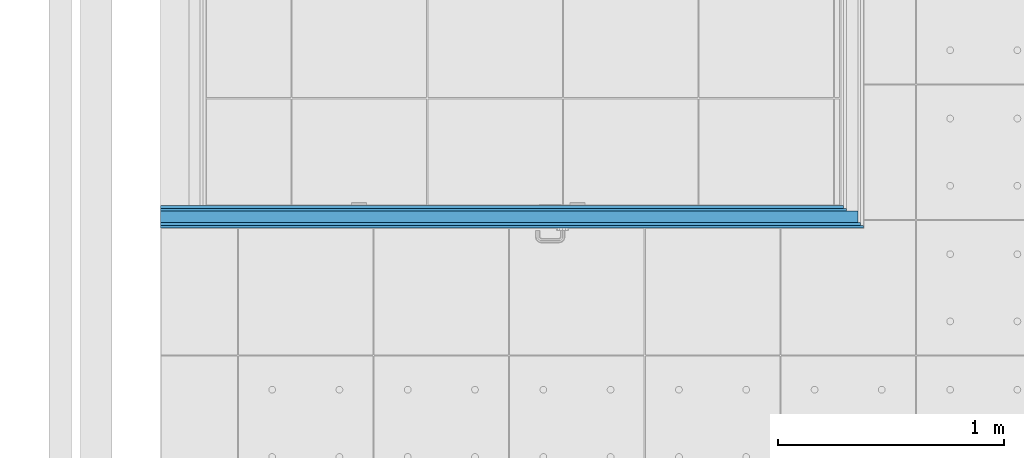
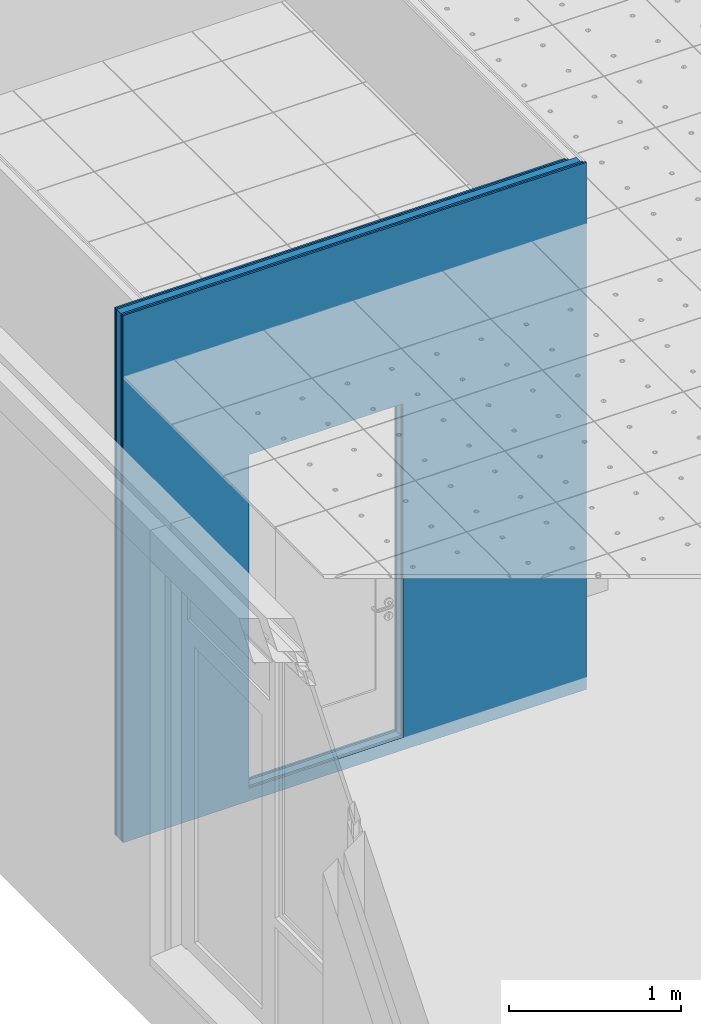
# One storey, part 25 of 338: 5 building element parts, 1 opening, 1 element without a shape of its own.
"""IFC2X3 building model written with IfcOpenShell, lengths in millimetres."""

import ifcopenshell
import ifcopenshell.guid

model = None  # the IFC model being written
_history = None  # IfcOwnerHistory: only IFC2X3 demands one
_inside = {}  # id of a spatial element -> (the spatial element, [elements in it])
_under = {}  # id of a project, library or spatial element -> (it, [spatial elements below it])
_declared = {}  # id of a project -> (the project, [libraries it declares])
_typed = {}  # id of a type object -> (the type object, [elements of that type])
_made_of = {}  # id of a material, layer set ... -> (it, [elements and type objects made of it])


def new_model(schema):
    """Start an empty IFC model of exactly this schema.

    Asked for "IFC4X3", IfcOpenShell would pick the latest addendum, in which some entities
    have other attributes; the version numbers below select the first issue.
    IFC2X3 requires an IfcOwnerHistory on every rooted entity: one is made here for all.
    """
    global model, _history
    if schema == "IFC4X3":
        model = ifcopenshell.file(schema_version=(4, 3, 0, 0))
    else:
        model = ifcopenshell.file(schema=schema)
    _inside.clear()
    _under.clear()
    _declared.clear()
    _typed.clear()
    _made_of.clear()
    _history = None
    if model.schema == "IFC2X3":
        org = make("IfcOrganization", Name="unknown")
        user = make(
            "IfcPersonAndOrganization",
            ThePerson=make("IfcPerson", FamilyName="unknown"),
            TheOrganization=org,
        )
        app = make(
            "IfcApplication",
            ApplicationDeveloper=org,
            Version="unknown",
            ApplicationFullName="unknown",
            ApplicationIdentifier="unknown",
        )
        _history = make(
            "IfcOwnerHistory",
            OwningUser=user,
            OwningApplication=app,
            ChangeAction="ADDED",
            CreationDate=0,
        )
    return model


def make(cls, **values):
    """One entity of the class cls with the attributes given. An attribute that is None is left unset."""
    return model.create_entity(
        cls, **{name: value for name, value in values.items() if value is not None}
    )


def entity(cls, *values):
    """Any entity or typed value of the class cls, its attributes in the order of the schema. None: left unset."""
    e = model.create_entity(cls)
    for i, value in enumerate(values):
        if value is not None:
            e[i] = value
    return e


def rooted(cls, **values):
    """An entity with a GlobalId (a new one), such as an element, a storey or a relation."""
    return make(cls, GlobalId=ifcopenshell.guid.new(), OwnerHistory=_history, **values)


def si_unit(unit_type, name, prefix=None):
    """IfcSIUnit, for example si_unit("LENGTHUNIT", "METRE", prefix="MILLI")."""
    return make("IfcSIUnit", UnitType=unit_type, Prefix=prefix, Name=name)


def converted_unit(unit_type, name, factor, base, dimensions=None, offset=None):
    """IfcConversionBasedUnit, such as the inch: factor (a typed value) times the base unit."""
    return make(
        "IfcConversionBasedUnit"
        if offset is None
        else "IfcConversionBasedUnitWithOffset",
        ConversionOffset=offset,
        Dimensions=None
        if dimensions is None
        else entity("IfcDimensionalExponents", *dimensions),
        UnitType=unit_type,
        Name=name,
        ConversionFactor=make(
            "IfcMeasureWithUnit", ValueComponent=factor, UnitComponent=base
        ),
    )


def derived_unit(unit_type, elements):
    """IfcDerivedUnit: a product of units, each with its exponent."""
    return make(
        "IfcDerivedUnit",
        Elements=[
            make("IfcDerivedUnitElement", Unit=unit, Exponent=power)
            for unit, power in elements
        ],
        UnitType=unit_type,
    )


def money_unit(currency):
    """IfcMonetaryUnit."""
    return make("IfcMonetaryUnit", Currency=currency)


def assignment(units):
    """IfcUnitAssignment: the units of a project."""
    return None if units is None else make("IfcUnitAssignment", Units=units)


def point(xyz):
    """IfcCartesianPoint."""
    return None if xyz is None else make("IfcCartesianPoint", Coordinates=xyz)


def direction(xyz):
    """IfcDirection."""
    return None if xyz is None else make("IfcDirection", DirectionRatios=xyz)


def frame(location, z_axis=None, x_axis=None):
    """IfcAxis2Placement3D, a coordinate frame: its origin and axes. An axis left out is left unset."""
    return make(
        "IfcAxis2Placement3D",
        Location=point(location),
        Axis=direction(z_axis),
        RefDirection=direction(x_axis),
    )


def origin_with_axes():
    """The frame at (0, 0, 0) with the z axis (0, 0, 1) and the x axis (1, 0, 0) written out."""
    return frame((0.0, 0.0, 0.0), z_axis=(0.0, 0.0, 1.0), x_axis=(1.0, 0.0, 0.0))


def place(relative_to, where):
    """IfcLocalPlacement: puts the frame where relative to a parent placement (None: the world)."""
    return make(
        "IfcLocalPlacement", PlacementRelTo=relative_to, RelativePlacement=where
    )


def context(
    kind, dimensions, precision=None, world=None, true_north=None, identifier=None
):
    """IfcGeometricRepresentationContext, for example the 3D "Model" context."""
    return make(
        "IfcGeometricRepresentationContext",
        ContextIdentifier=identifier,
        ContextType=kind,
        CoordinateSpaceDimension=dimensions,
        Precision=precision,
        WorldCoordinateSystem=world,
        TrueNorth=true_north,
    )


def subcontext(parent, identifier, kind, view, scale=None):
    """IfcGeometricRepresentationSubContext, for example "Body" below "Model"."""
    return make(
        "IfcGeometricRepresentationSubContext",
        ContextIdentifier=identifier,
        ContextType=kind,
        ParentContext=parent,
        TargetScale=scale,
        TargetView=view,
    )


def project(units=None, contexts=None):
    """IfcProject with its units and contexts."""
    return rooted(
        "IfcProject",
        Name="project",
        RepresentationContexts=contexts,
        UnitsInContext=assignment(units),
    )


def spatial(cls, under=None, at=None, **own):
    """A site, building, storey or space (cls), placed at a placement, below another one or the project."""
    s = rooted(cls, ObjectPlacement=at, **own)
    if under is not None:
        _under.setdefault(under.id(), (under, []))[1].append(s)
    return s


def faces_of(points, faces, orient=None, outer=None):
    """IfcFace entities. A face is a list of loops; a loop is a list of indices into points, from 0.

    orient and outer hold one flag for each loop. By default every Orientation is true, the
    first loop of a face is its IfcFaceOuterBound and the others are IfcFaceBound.
    """
    made = []
    for i, loops in enumerate(faces):
        bounds = []
        for j, loop in enumerate(loops):
            is_outer = j == 0 if outer is None else outer[i][j]
            bounds.append(
                make(
                    "IfcFaceOuterBound" if is_outer else "IfcFaceBound",
                    Bound=make("IfcPolyLoop", Polygon=[points[k] for k in loop]),
                    Orientation=True if orient is None else orient[i][j],
                )
            )
        made.append(make("IfcFace", Bounds=bounds))
    return made


def faceted_brep(points, faces, orient=None, outer=None, voids=None):
    """IfcFacetedBrep: a solid bounded by flat faces; with voids (closed shells), ...WithVoids."""
    shared = [point(p) for p in points]
    hull = make("IfcClosedShell", CfsFaces=faces_of(shared, faces, orient, outer))
    if voids is None:
        return make("IfcFacetedBrep", Outer=hull)
    return make(
        "IfcFacetedBrepWithVoids",
        Outer=hull,
        Voids=[
            make(cls, CfsFaces=faces_of(shared, fs, o, b)) for cls, fs, o, b in voids
        ],
    )


def shape(context_of_items, identifier, shape_type, items):
    """IfcShapeRepresentation: the items that make up one representation, for example the "Body"."""
    return make(
        "IfcShapeRepresentation",
        ContextOfItems=context_of_items,
        RepresentationIdentifier=identifier,
        RepresentationType=shape_type,
        Items=items,
    )


def material(Name=None, Category=None):
    """IfcMaterial."""
    return make("IfcMaterial", Name=Name, Category=Category)


def made_of(thing, what):
    """Note that an element or type object is made of a material, layer set ...; save() writes the relation."""
    if what is not None:
        _made_of.setdefault(what.id(), (what, []))[1].append(thing)
    return thing


def type_object(cls, material=None, **own):
    """A type object (cls), such as IfcWallType, which elements share."""
    return made_of(rooted(cls, **own), material)


def element(
    cls,
    number,
    at=None,
    inside=None,
    cuts=None,
    type_object=None,
    material=None,
    context=None,
    identifier="Body",
    shape_type=None,
    held_by="IfcProductDefinitionShape",
    body=None,
    shapes=None,
    **own,
):
    """One element of the class cls, such as IfcWall. Its Tag is "e" and its number.

    at: its placement. inside: the storey or other place that contains it. cuts: it is an
    opening in that element (IfcRelVoidsElement). A single representation is given by context,
    identifier, shape_type and body (its items); several are given by shapes. held_by: the class
    of the entity that holds the representations. save() writes the other relations.
    """
    e = rooted(cls, Tag="e%d" % number, ObjectPlacement=at, **own)
    if body is not None:
        shapes = [shape(context, identifier, shape_type, body)]
    if shapes is not None:
        e.Representation = make(held_by, Representations=shapes)
    if inside is not None:
        _inside.setdefault(inside.id(), (inside, []))[1].append(e)
    if cuts is not None:
        rooted(
            "IfcRelVoidsElement", RelatingBuildingElement=cuts, RelatedOpeningElement=e
        )
    if type_object is not None:
        _typed.setdefault(type_object.id(), (type_object, []))[1].append(e)
    return made_of(e, material)


def aggregate(whole, parts):
    """IfcRelAggregates: a whole, such as a stair, and the parts it consists of."""
    return rooted("IfcRelAggregates", RelatingObject=whole, RelatedObjects=parts)


def save(model, path):
    """Write the relations noted so far, then the file.

    IfcRelAggregates (storeys below a building ...), IfcRelContainedInSpatialStructure (elements
    in a storey), IfcRelDefinesByType, IfcRelAssociatesMaterial and IfcRelDeclares: one each for
    every whole, place, type object, material and project.
    """
    for whole, parts in _under.values():
        aggregate(whole, parts)
    for where, things in _inside.values():
        rooted(
            "IfcRelContainedInSpatialStructure",
            RelatedElements=things,
            RelatingStructure=where,
        )
    for kind, things in _typed.values():
        rooted("IfcRelDefinesByType", RelatedObjects=things, RelatingType=kind)
    for what, things in _made_of.values():
        rooted("IfcRelAssociatesMaterial", RelatedObjects=things, RelatingMaterial=what)
    for by, libraries in _declared.values():
        rooted("IfcRelDeclares", RelatingContext=by, RelatedDefinitions=libraries)
    model.write(path)


model = new_model("IFC2X3")

# Units and contexts
model_context = context("Model", 3, precision=0.01, world=origin_with_axes(), true_north=direction((0.0, 1.0)))
plan_context = context("Plan", 3, precision=0.01, world=origin_with_axes(), true_north=direction((0.0, 1.0)))
body_context = subcontext(model_context, "Body", "Model", "MODEL_VIEW")
ifc_project = project(units=[si_unit("LENGTHUNIT", "METRE", prefix="MILLI"), si_unit("AREAUNIT", "SQUARE_METRE"), si_unit("VOLUMEUNIT", "CUBIC_METRE"), converted_unit("PLANEANGLEUNIT", "DEGREE", entity("IfcPlaneAngleMeasure", 0.0174532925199), si_unit("PLANEANGLEUNIT", "RADIAN"), dimensions=[0, 0, 0, 0, 0, 0, 0]), money_unit("EUR"), converted_unit("TIMEUNIT", "Year", entity("IfcTimeMeasure", 31556926.0), si_unit("TIMEUNIT", "SECOND"), dimensions=[0, 0, 1, 0, 0, 0, 0]), si_unit("MASSUNIT", "GRAM", prefix="KILO"), si_unit("THERMODYNAMICTEMPERATUREUNIT", "DEGREE_CELSIUS"), si_unit("LUMINOUSINTENSITYUNIT", "LUMEN"), si_unit("ENERGYUNIT", "JOULE", prefix="MEGA"), derived_unit("THERMALCONDUCTANCEUNIT", [(si_unit("POWERUNIT", "WATT"), 1), (si_unit("LENGTHUNIT", "METRE"), -1), (si_unit("THERMODYNAMICTEMPERATUREUNIT", "KELVIN"), -1)]), derived_unit("SPECIFICHEATCAPACITYUNIT", [(si_unit("ENERGYUNIT", "JOULE"), 1), (si_unit("MASSUNIT", "GRAM", prefix="KILO"), -1), (si_unit("THERMODYNAMICTEMPERATUREUNIT", "KELVIN"), -1)]), derived_unit("MASSDENSITYUNIT", [(si_unit("MASSUNIT", "GRAM", prefix="KILO"), 1), (si_unit("VOLUMEUNIT", "CUBIC_METRE"), -1)])], contexts=[model_context, plan_context])

# Site, building, storey
site_placement = place(None, origin_with_axes())
site = spatial("IfcSite", under=ifc_project, at=site_placement, Name="Fortuinstraat Woensdrecht", CompositionType="ELEMENT")
building_placement = place(site_placement, origin_with_axes())
building = spatial("IfcBuilding", under=site, at=building_placement, Name="IKC Fortuna", CompositionType="ELEMENT")
storey_placement = place(building_placement, origin_with_axes())
storey = spatial("IfcBuildingStorey", under=building, at=storey_placement, Name="00 begane grond", CompositionType="ELEMENT", Elevation=0.0)

# Wall, opening, building element parts
wall_type = type_object("IfcWallType", Name="MS100 2.50.2A 100", PredefinedType="NOTDEFINED")
wall_placement = place(storey_placement, frame((13809.4349765, 23182.5465112, -90.0), z_axis=(0.0, 0.0, 1.0), x_axis=(1.0, 0.0, 0.0)))
wall = element("IfcWall", 1, at=wall_placement, inside=storey, type_object=wall_type, Name="22_Wand_Binnenwand")
opening_placement = place(wall_placement, frame((1362.09924661, 0.0, 90.0), z_axis=(0.0, 0.0, 1.0), x_axis=(1.0, 0.0, 0.0)))
element("IfcOpeningElement", 2, at=opening_placement, cuts=wall, Name="32_Deur_h.01c", context=body_context, shape_type="Brep", body=[
    faceted_brep([(-517.0, 100.0, 2367.0), (-517.0, 100.0, 0.0), (-517.0, -200.0, 0.0), (-517.0, -200.0, 2367.0), (517.0, 100.0, 2367.0), (517.0, 100.0, 0.0), (517.0, -200.0, 0.0), (517.0, -200.0, 2367.0)], [[[0, 1, 2, 3]], [[0, 4, 5, 1]], [[1, 5, 6, 2]], [[3, 2, 6, 7]], [[4, 0, 3, 7]], [[5, 4, 7, 6]]]),
])
ifc_material_1 = material(Name="Gipsplaat")
building_element_part_1_placement = place(wall_placement, origin_with_axes())
building_element_part_1 = element("IfcBuildingElementPart", 3, at=building_element_part_1_placement, material=ifc_material_1, Name="Gipsplaat", context=body_context, shape_type="Brep", body=[
    faceted_brep([(0.0, 87.5, 3740.0), (0.0, 87.5, 0.0), (3022.59924661, 87.5, 0.0), (3022.59924661, 87.5, 3740.0), (845.099246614, 87.5, 90.0), (845.099246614, 87.5, 2457.0), (1879.09924661, 87.5, 2457.0), (1879.09924661, 87.5, 90.0), (0.0, 100.0, 3740.0), (0.0, 100.0, 0.0), (3022.59924661, 100.0, 0.0), (3022.59924661, 100.0, 3740.0), (845.099246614, 100.0, 90.0), (845.099246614, 100.0, 2457.0), (1879.09924661, 100.0, 2457.0), (1879.09924661, 100.0, 90.0)], [[[0, 1, 2, 3], [4, 5, 6, 7]], [[8, 9, 1, 0]], [[1, 9, 10, 2]], [[2, 10, 11, 3]], [[8, 0, 3, 11]], [[12, 13, 5, 4]], [[13, 14, 6, 5]], [[14, 15, 7, 6]], [[15, 12, 4, 7]], [[9, 8, 11, 10], [12, 15, 14, 13]]]),
])
building_element_part_2_placement = place(wall_placement, origin_with_axes())
building_element_part_2 = element("IfcBuildingElementPart", 4, at=building_element_part_2_placement, material=ifc_material_1, Name="Gipsplaat", context=body_context, shape_type="Brep", body=[
    faceted_brep([(0.0, 75.0, 3740.0), (0.0, 75.0, 0.0), (3035.09924661, 75.0, 0.0), (3035.09924661, 75.0, 3740.0), (845.099246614, 75.0, 90.0), (845.099246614, 75.0, 2457.0), (1879.09924661, 75.0, 2457.0), (1879.09924661, 75.0, 90.0), (0.0, 87.5, 3740.0), (0.0, 87.5, 0.0), (3035.09924661, 87.5, 0.0), (3035.09924661, 87.5, 3740.0), (845.099246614, 87.5, 90.0), (845.099246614, 87.5, 2457.0), (1879.09924661, 87.5, 2457.0), (1879.09924661, 87.5, 90.0)], [[[0, 1, 2, 3], [4, 5, 6, 7]], [[8, 9, 1, 0]], [[1, 9, 10, 2]], [[2, 10, 11, 3]], [[8, 0, 3, 11]], [[12, 13, 5, 4]], [[13, 14, 6, 5]], [[14, 15, 7, 6]], [[15, 12, 4, 7]], [[9, 8, 11, 10], [12, 15, 14, 13]]]),
])
ifc_material_2 = material(Name="Isolatie - Steenwol LSW")
building_element_part_3_placement = place(wall_placement, origin_with_axes())
building_element_part_3 = element("IfcBuildingElementPart", 5, at=building_element_part_3_placement, material=ifc_material_2, Name="Isolatie - Steenwol LSW", context=body_context, shape_type="Brep", body=[
    faceted_brep([(0.0, 25.0, 3740.0), (0.0, 25.0, 0.0), (3085.09924661, 25.0, 0.0), (3085.09924661, 25.0, 3740.0), (845.099246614, 25.0, 90.0), (845.099246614, 25.0, 2457.0), (1879.09924661, 25.0, 2457.0), (1879.09924661, 25.0, 90.0), (0.0, 75.0, 3740.0), (0.0, 75.0, 0.0), (3085.09924661, 75.0, 0.0), (3085.09924661, 75.0, 3740.0), (845.099246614, 75.0, 90.0), (845.099246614, 75.0, 2457.0), (1879.09924661, 75.0, 2457.0), (1879.09924661, 75.0, 90.0)], [[[0, 1, 2, 3], [4, 5, 6, 7]], [[8, 9, 1, 0]], [[1, 9, 10, 2]], [[2, 10, 11, 3]], [[8, 0, 3, 11]], [[12, 13, 5, 4]], [[13, 14, 6, 5]], [[14, 15, 7, 6]], [[15, 12, 4, 7]], [[9, 8, 11, 10], [12, 15, 14, 13]]]),
])
building_element_part_4_placement = place(wall_placement, origin_with_axes())
building_element_part_4 = element("IfcBuildingElementPart", 6, at=building_element_part_4_placement, material=ifc_material_1, Name="Gipsplaat", context=body_context, shape_type="Brep", body=[
    faceted_brep([(0.0, 12.5, 3740.0), (0.0, 12.5, 0.0), (3097.59924661, 12.5, 0.0), (3097.59924661, 12.5, 3740.0), (845.099246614, 12.5, 90.0), (845.099246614, 12.5, 2457.0), (1879.09924661, 12.5, 2457.0), (1879.09924661, 12.5, 90.0), (0.0, 25.0, 3740.0), (0.0, 25.0, 0.0), (3097.59924661, 25.0, 0.0), (3097.59924661, 25.0, 3740.0), (845.099246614, 25.0, 90.0), (845.099246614, 25.0, 2457.0), (1879.09924661, 25.0, 2457.0), (1879.09924661, 25.0, 90.0)], [[[0, 1, 2, 3], [4, 5, 6, 7]], [[8, 9, 1, 0]], [[1, 9, 10, 2]], [[2, 10, 11, 3]], [[8, 0, 3, 11]], [[12, 13, 5, 4]], [[13, 14, 6, 5]], [[14, 15, 7, 6]], [[15, 12, 4, 7]], [[9, 8, 11, 10], [12, 15, 14, 13]]]),
])
building_element_part_5_placement = place(wall_placement, origin_with_axes())
building_element_part_5 = element("IfcBuildingElementPart", 7, at=building_element_part_5_placement, material=ifc_material_1, Name="Gipsplaat", context=body_context, shape_type="Brep", body=[
    faceted_brep([(0.0, 0.0, 3740.0), (0.0, 0.0, 0.0), (3110.09924661, 0.0, 0.0), (3110.09924661, 0.0, 3740.0), (845.099246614, 0.0, 90.0), (845.099246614, 0.0, 2457.0), (1879.09924661, 0.0, 2457.0), (1879.09924661, 0.0, 90.0), (0.0, 12.5, 3740.0), (0.0, 12.5, 0.0), (3110.09924661, 12.5, 0.0), (3110.09924661, 12.5, 3740.0), (845.099246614, 12.5, 90.0), (845.099246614, 12.5, 2457.0), (1879.09924661, 12.5, 2457.0), (1879.09924661, 12.5, 90.0)], [[[0, 1, 2, 3], [4, 5, 6, 7]], [[8, 9, 1, 0]], [[1, 9, 10, 2]], [[2, 10, 11, 3]], [[8, 0, 3, 11]], [[12, 13, 5, 4]], [[13, 14, 6, 5]], [[14, 15, 7, 6]], [[15, 12, 4, 7]], [[9, 8, 11, 10], [12, 15, 14, 13]]]),
])
aggregate(wall, [building_element_part_1, building_element_part_2, building_element_part_3, building_element_part_4, building_element_part_5])

save(model, "model.ifc")
